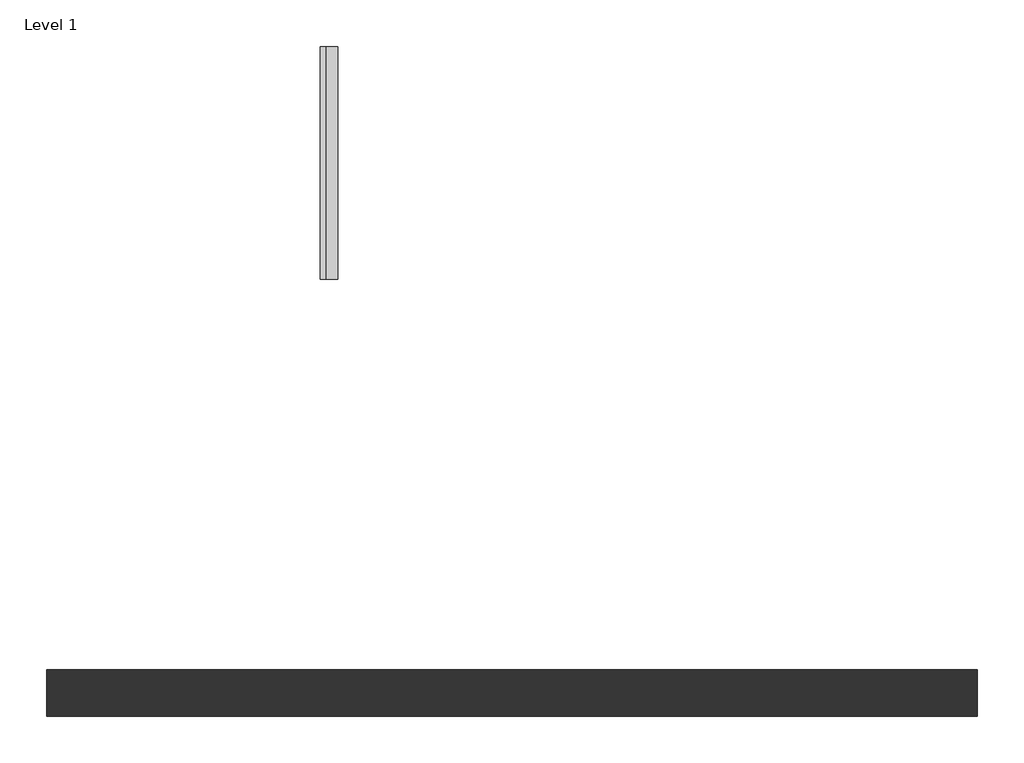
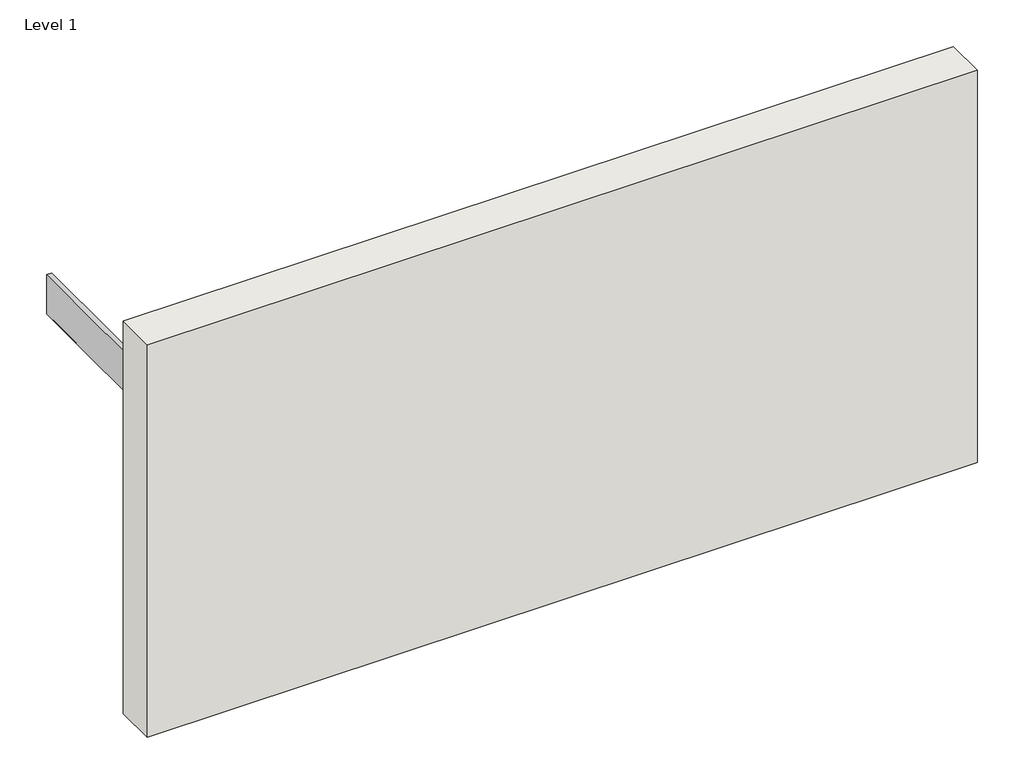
# One storey: 1 proxy, 1 wall.
"""IFC4 building model written with IfcOpenShell, lengths in millimetres."""

from ifc_helpers import new_model, si_unit, origin, origin_with_axes, place, context, project, spatial, polyline, outline, extrude, transform, mapped, element, save
from components import bond_lok_kerb_flashing_family_bond_lok_fd1_kerb_flashing_c5977c4c

model = new_model("IFC4")

# Units and contexts
model_context = context("Model", 3, world=origin())
ifc_project = project(units=[si_unit("LENGTHUNIT", "METRE", prefix="MILLI")], contexts=[model_context])

# Site, building, storey
site = spatial("IfcSite", under=ifc_project)
building = spatial("IfcBuilding", under=site)
storey = spatial("IfcBuildingStorey", under=building, Name="Level 1", Elevation=0.0)

# Proxy
placement = place(None, origin())
bond_lok_kerb_flashing_family_bond_lok_fd1_kerb_flashing_shape = bond_lok_kerb_flashing_family_bond_lok_fd1_kerb_flashing_c5977c4c(model_context)
element("IfcBuildingElementProxy", 1, Name="Bond-lok Kerb Flashing Family : Bond-Lok FD1-Kerb Flashing", ObjectType="Bond-lok Kerb Flashing Family : Bond-Lok FD1-Kerb Flashing", at=placement, inside=storey, context=model_context, shape_type="MappedRepresentation", body=[
    mapped(bond_lok_kerb_flashing_family_bond_lok_fd1_kerb_flashing_shape, transform((-3922.8930756, 4365.9774317, 0.0), x_axis=(1.0, 0.0, 0.0), y_axis=(0.0, 1.0, 0.0), z_axis=(0.0, 0.0, 1.0))),
])

# Wall
element("IfcWall", 2, ObjectType="Generic - 200mm", at=placement, inside=storey, context=model_context, shape_type="SweptSolid", body=[
    extrude(outline(polyline([(-1098.3068694, 1988.5055674), (-5098.3068694, 1988.5055674), (-5098.3068694, 2188.5055674), (-1098.3068694, 2188.5055674), (-1098.3068694, 1988.5055674)])), origin_with_axes(), (0.0, 0.0, 1.0), 2000.0),
])

save(model, "model.ifc")
